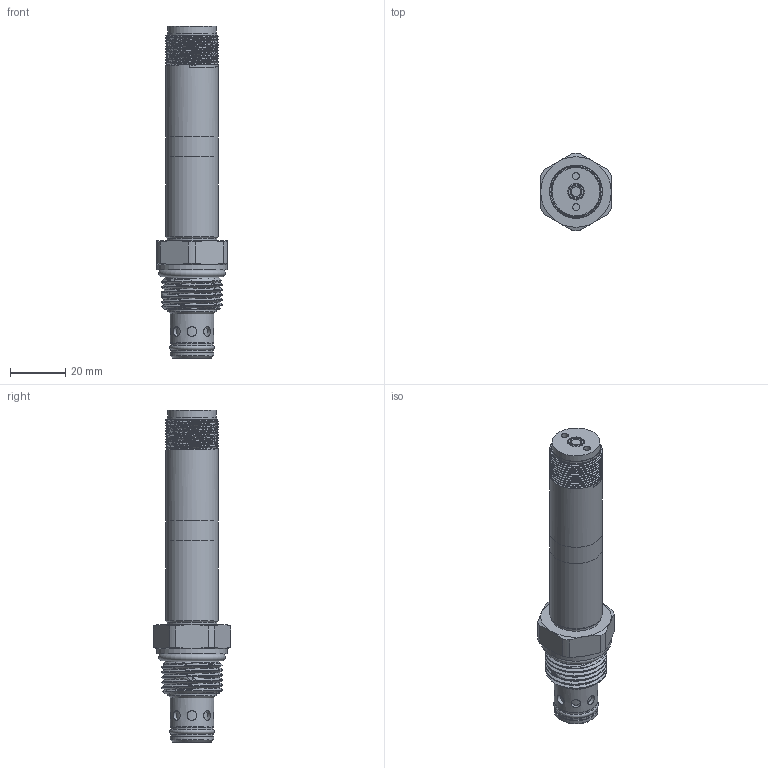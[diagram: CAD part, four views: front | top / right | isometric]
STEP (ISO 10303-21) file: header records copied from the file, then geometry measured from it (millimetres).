
FILE_DESCRIPTION(/* description */ ('','CAx-IF Rec.Pracs.---Representation and Presentation of Product Manufacturing Information (PMI)---4.0---2014-10-13'),/* implementation_level */ '2;1');
FILE_NAME(/* name */ 'P:\EARS\EAR16xx\EAR1683 - catalog pages changes\Group3_Distribution_1_18_23\RTeck Agency_Tom_UNSENT\_step files\EDES2H00.stp',/* time_stamp */ '2023-01-19T08:00:04-06:00',/* author */ ('Michael'),/* organization */ (''),/* preprocessor_version */ 'ST-DEVELOPER v17.2',/* originating_system */ 'Autodesk Inventor 2019',/* authorisation */ '');
FILE_SCHEMA (('AP242_MANAGED_MODEL_BASED_3D_ENGINEERING_MIM_LF { 1 0 10303 442 1 1 4 }'));
Length unit declared in the file: inch
Products named in the file (1): EDES2H00
Bounding box: 25.4 x 27.93 x 119.69 mm (x, y, z)
Volume: 35918.5 mm3; surface area: 10551.7 mm2
Topology: 1 solids, 1 shells, 137 faces, 344 edges, 234 vertices
Faces by surface type: cylinder 63, plane 32, cone 24, bspline 10, torus 8
Full cylindrical faces by diameter (mm): 2.5 x2, 3.5 x8, 4.318 x1, 9.51 x1, 12.992 x2, 15.392 x2, 15.773 x2, 17.31 x1, 17.348 x1, 17.4 x1, 17.78 x1, 18.001 x1, 19 x13, 19.005 x1, 19.71 x2, 22.225 x5, 25.4 x1
Entity records: 11972 total; most frequent: CARTESIAN_POINT 8575, ORIENTED_EDGE 688, DIRECTION 624, EDGE_CURVE 344, AXIS2_PLACEMENT_3D 274, VERTEX_POINT 234, EDGE_LOOP 167, CIRCLE 146
